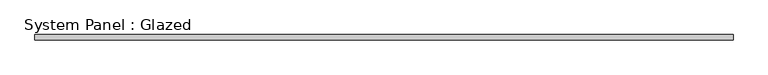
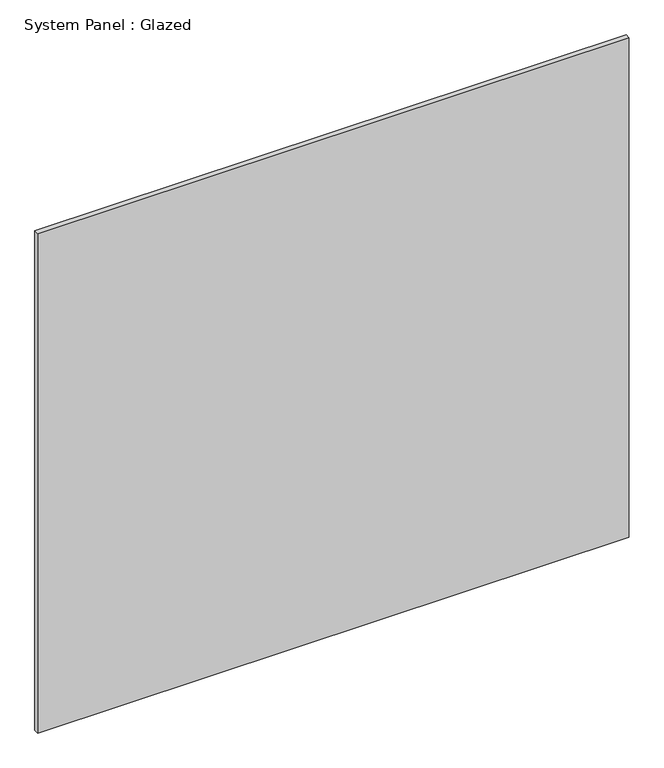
"""IFC4 building model written with IfcOpenShell, lengths in millimetres: plate geometry, System Panel : Glazed."""

from ifc_helpers import new_model, si_unit, origin, origin_with_axes, place, context, project, spatial, polyline, outline, extrude, source, transform, mapped, element, save


def system_panel_glazed_ddc2896f(model_context):
    return source(origin(), model_context, "Body", "SweptSolid", [
        extrude(outline(polyline([(1636.7125, -44.45), (-1636.7125, -44.45), (-1636.7125, -19.05), (1636.7125, -19.05), (1636.7125, -44.45)])), origin_with_axes(), (0.0, 0.0, 1.0), 2921.0),
    ])


if __name__ == "__main__":
    model = new_model("IFC4")
    model_context = context("Model", 3, world=origin())
    ifc_project = project(units=[si_unit("LENGTHUNIT", "METRE", prefix="MILLI")], contexts=[model_context])
    site = spatial("IfcSite", under=ifc_project)
    building = spatial("IfcBuilding", under=site)
    placement = place(None, origin())
    system_panel_glazed_shape = system_panel_glazed_ddc2896f(model_context)
    element("IfcPlate", 1, ObjectType="System Panel : Glazed", at=placement, inside=building, context=model_context, shape_type="MappedRepresentation", body=[
        mapped(system_panel_glazed_shape, transform((0.0, 0.0, 0.0), x_axis=(1.0, 0.0, 0.0), y_axis=(0.0, 1.0, 0.0), z_axis=(0.0, 0.0, 1.0))),
    ])
    save(model, "model.ifc")
